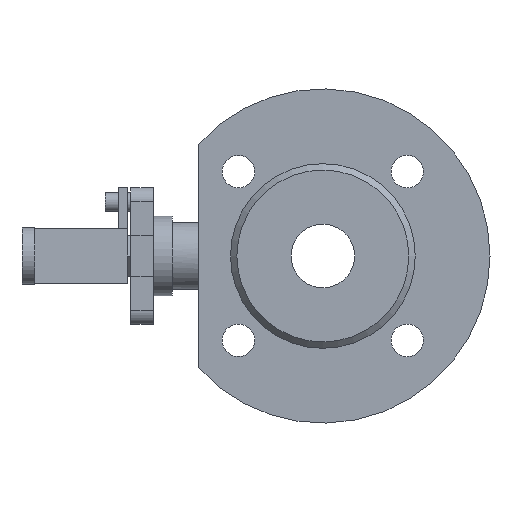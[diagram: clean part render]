
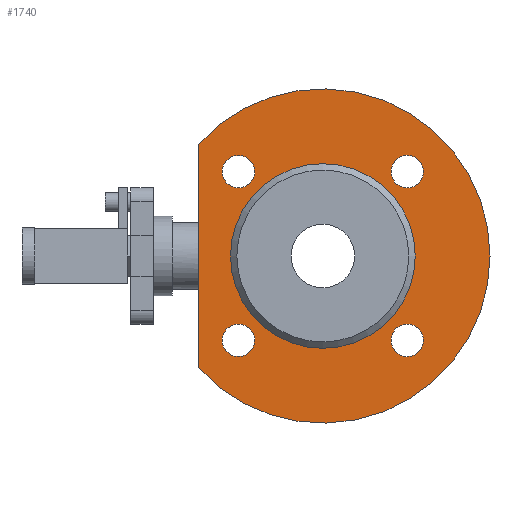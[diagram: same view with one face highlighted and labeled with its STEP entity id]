
A CAD part, left-side view. The second image highlights one B-rep face of the part: STEP entity #1740.
In plain terms, the highlighted planar face has unit normal (-1, 0, 0).
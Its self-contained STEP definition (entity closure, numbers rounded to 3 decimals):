
#3 = AXIS2_PLACEMENT_3D ( 'NONE', #1643, #165, #1886 ) ;
#72 = ORIENTED_EDGE ( 'NONE', *, *, #290, .F. ) ;
#77 = CARTESIAN_POINT ( 'NONE',  ( -17., -26.517, -26.517 ) ) ;
#145 = CIRCLE ( 'NONE', #464, 52.5 ) ;
#165 = DIRECTION ( 'NONE',  ( 1., 0., 0. ) ) ;
#290 = EDGE_CURVE ( 'NONE', #1932, #1932, #577, .T. ) ;
#335 = DIRECTION ( 'NONE',  ( -1., 0., 0. ) ) ;
#336 = EDGE_LOOP ( 'NONE', ( #1996 ) ) ;
#339 = DIRECTION ( 'NONE',  ( 0., 0., -1. ) ) ;
#344 = FACE_BOUND ( 'NONE', #1816, .T. ) ;
#428 = CARTESIAN_POINT ( 'NONE',  ( -17., 39., 35.146 ) ) ;
#464 = AXIS2_PLACEMENT_3D ( 'NONE', #2097, #653, #2345 ) ;
#496 = EDGE_CURVE ( 'NONE', #2836, #2474, #536, .T. ) ;
#536 = LINE ( 'NONE', #2780, #2309 ) ;
#577 = CIRCLE ( 'NONE', #2113, 5.1 ) ;
#620 = EDGE_LOOP ( 'NONE', ( #859 ) ) ;
#651 = EDGE_CURVE ( 'NONE', #3127, #3127, #1776, .T. ) ;
#653 = DIRECTION ( 'NONE',  ( -1., 0., 0. ) ) ;
#758 = EDGE_LOOP ( 'NONE', ( #861, #1614 ) ) ;
#765 = CARTESIAN_POINT ( 'NONE',  ( -17., 0., 0. ) ) ;
#775 = CARTESIAN_POINT ( 'NONE',  ( -17., 26.517, 31.617 ) ) ;
#786 = CARTESIAN_POINT ( 'NONE',  ( -17., -26.517, -31.617 ) ) ;
#859 = ORIENTED_EDGE ( 'NONE', *, *, #651, .F. ) ;
#861 = ORIENTED_EDGE ( 'NONE', *, *, #1223, .T. ) ;
#869 = DIRECTION ( 'NONE',  ( -1., 0., 0. ) ) ;
#881 = DIRECTION ( 'NONE',  ( -1., 0., 0. ) ) ;
#1013 = DIRECTION ( 'NONE',  ( 0., 0., 1. ) ) ;
#1033 = CARTESIAN_POINT ( 'NONE',  ( -17., 31.617, -26.517 ) ) ;
#1048 = VERTEX_POINT ( 'NONE', #786 ) ;
#1223 = EDGE_CURVE ( 'NONE', #2474, #2836, #145, .T. ) ;
#1236 = EDGE_LOOP ( 'NONE', ( #72 ) ) ;
#1257 = AXIS2_PLACEMENT_3D ( 'NONE', #77, #1795, #339 ) ;
#1525 = AXIS2_PLACEMENT_3D ( 'NONE', #2335, #881, #2583 ) ;
#1563 = AXIS2_PLACEMENT_3D ( 'NONE', #765, #2471, #1013 ) ;
#1584 = CARTESIAN_POINT ( 'NONE',  ( -17., -26.517, 26.517 ) ) ;
#1614 = ORIENTED_EDGE ( 'NONE', *, *, #496, .T. ) ;
#1631 = CARTESIAN_POINT ( 'NONE',  ( -17., 39., -35.146 ) ) ;
#1643 = CARTESIAN_POINT ( 'NONE',  ( -17., 52.5, 0. ) ) ;
#1644 = FACE_BOUND ( 'NONE', #2273, .T. ) ;
#1740 = ADVANCED_FACE ( 'NONE', ( #2666, #2284, #1644, #2917, #344, #2839 ), #2834, .F. ) ;
#1761 = CARTESIAN_POINT ( 'NONE',  ( -17., 0., 29. ) ) ;
#1776 = CIRCLE ( 'NONE', #2364, 5.1 ) ;
#1795 = DIRECTION ( 'NONE',  ( -1., 0., 0. ) ) ;
#1816 = EDGE_LOOP ( 'NONE', ( #2584 ) ) ;
#1886 = DIRECTION ( 'NONE',  ( 0., 0., -1. ) ) ;
#1932 = VERTEX_POINT ( 'NONE', #1989 ) ;
#1989 = CARTESIAN_POINT ( 'NONE',  ( -17., -31.617, 26.517 ) ) ;
#1996 = ORIENTED_EDGE ( 'NONE', *, *, #2596, .F. ) ;
#2036 = DIRECTION ( 'NONE',  ( 0., 0., 1. ) ) ;
#2070 = CIRCLE ( 'NONE', #1563, 29. ) ;
#2097 = CARTESIAN_POINT ( 'NONE',  ( -17., 0., 0. ) ) ;
#2107 = DIRECTION ( 'NONE',  ( 0., -1., 0. ) ) ;
#2113 = AXIS2_PLACEMENT_3D ( 'NONE', #1584, #869, #2107 ) ;
#2187 = VERTEX_POINT ( 'NONE', #1761 ) ;
#2273 = EDGE_LOOP ( 'NONE', ( #3100 ) ) ;
#2284 = FACE_BOUND ( 'NONE', #336, .T. ) ;
#2309 = VECTOR ( 'NONE', #2759, 1000. ) ;
#2335 = CARTESIAN_POINT ( 'NONE',  ( -17., 26.517, -26.517 ) ) ;
#2345 = DIRECTION ( 'NONE',  ( 0., 0., 1. ) ) ;
#2364 = AXIS2_PLACEMENT_3D ( 'NONE', #2458, #335, #2036 ) ;
#2458 = CARTESIAN_POINT ( 'NONE',  ( -17., 26.517, 26.517 ) ) ;
#2471 = DIRECTION ( 'NONE',  ( -1., 0., 0. ) ) ;
#2474 = VERTEX_POINT ( 'NONE', #1631 ) ;
#2583 = DIRECTION ( 'NONE',  ( 0., 1., 0. ) ) ;
#2584 = ORIENTED_EDGE ( 'NONE', *, *, #3120, .F. ) ;
#2596 = EDGE_CURVE ( 'NONE', #1048, #1048, #3011, .T. ) ;
#2666 = FACE_BOUND ( 'NONE', #1236, .T. ) ;
#2748 = EDGE_CURVE ( 'NONE', #2894, #2894, #3050, .T. ) ;
#2759 = DIRECTION ( 'NONE',  ( 0., 0., -1. ) ) ;
#2780 = CARTESIAN_POINT ( 'NONE',  ( -17., 39., 0. ) ) ;
#2834 = PLANE ( 'NONE',  #3 ) ;
#2836 = VERTEX_POINT ( 'NONE', #428 ) ;
#2839 = FACE_OUTER_BOUND ( 'NONE', #758, .T. ) ;
#2894 = VERTEX_POINT ( 'NONE', #1033 ) ;
#2917 = FACE_BOUND ( 'NONE', #620, .T. ) ;
#3011 = CIRCLE ( 'NONE', #1257, 5.1 ) ;
#3050 = CIRCLE ( 'NONE', #1525, 5.1 ) ;
#3100 = ORIENTED_EDGE ( 'NONE', *, *, #2748, .F. ) ;
#3120 = EDGE_CURVE ( 'NONE', #2187, #2187, #2070, .T. ) ;
#3127 = VERTEX_POINT ( 'NONE', #775 ) ;
